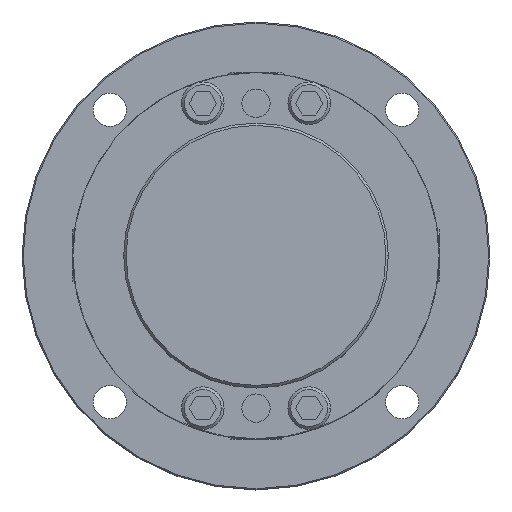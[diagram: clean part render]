
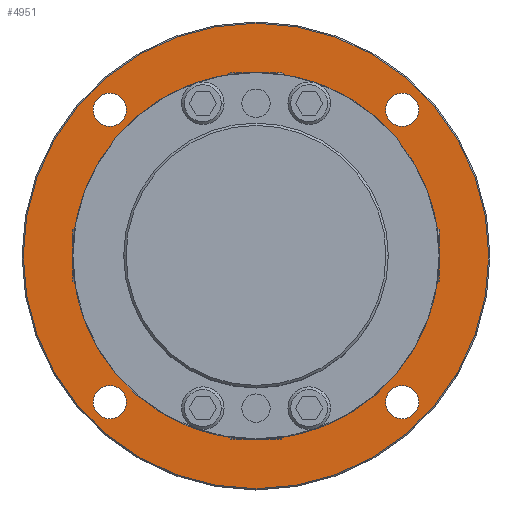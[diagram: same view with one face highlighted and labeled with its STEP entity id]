
A CAD part, top view. The second image highlights one B-rep face of the part: STEP entity #4951.
In plain terms, the highlighted planar face has unit normal (0, 0, 1).
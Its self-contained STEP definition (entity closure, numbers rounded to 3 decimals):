
#1193=CARTESIAN_POINT('',(0.,77.5,-28.5));
#1194=VERTEX_POINT('',#1193);
#1203=CARTESIAN_POINT('',(0.,-77.5,-28.5));
#1204=VERTEX_POINT('',#1203);
#1205=CARTESIAN_POINT('',(0.0,0.,-28.5));
#1206=DIRECTION('',(0.0,0.0,-1.0));
#1207=DIRECTION('',(0.0,1.0,0.0));
#1208=AXIS2_PLACEMENT_3D('',#1205,#1206,#1207);
#1209=CIRCLE('',#1208,77.5);
#1210=EDGE_CURVE('',#1204,#1194,#1209,.T.);
#1285=CARTESIAN_POINT('',(-61.872,68.872,-28.5));
#1286=VERTEX_POINT('',#1285);
#1295=CARTESIAN_POINT('',(-61.872,54.872,-28.5));
#1296=VERTEX_POINT('',#1295);
#1297=CARTESIAN_POINT('',(-61.872,61.872,-28.5));
#1298=DIRECTION('',(0.0,0.0,-1.0));
#1299=DIRECTION('',(0.0,1.0,0.0));
#1300=AXIS2_PLACEMENT_3D('',#1297,#1298,#1299);
#1301=CIRCLE('',#1300,7.0);
#1302=EDGE_CURVE('',#1296,#1286,#1301,.T.);
#1327=CARTESIAN_POINT('',(-61.872,-54.872,-28.5));
#1328=VERTEX_POINT('',#1327);
#1337=CARTESIAN_POINT('',(-61.872,-68.872,-28.5));
#1338=VERTEX_POINT('',#1337);
#1339=CARTESIAN_POINT('',(-61.872,-61.872,-28.5));
#1340=DIRECTION('',(0.0,0.0,-1.0));
#1341=DIRECTION('',(0.0,1.0,0.0));
#1342=AXIS2_PLACEMENT_3D('',#1339,#1340,#1341);
#1343=CIRCLE('',#1342,7.0);
#1344=EDGE_CURVE('',#1338,#1328,#1343,.T.);
#1369=CARTESIAN_POINT('',(61.872,-54.872,-28.5));
#1370=VERTEX_POINT('',#1369);
#1379=CARTESIAN_POINT('',(61.872,-68.872,-28.5));
#1380=VERTEX_POINT('',#1379);
#1381=CARTESIAN_POINT('',(61.872,-61.872,-28.5));
#1382=DIRECTION('',(0.0,0.0,-1.0));
#1383=DIRECTION('',(0.0,1.0,0.0));
#1384=AXIS2_PLACEMENT_3D('',#1381,#1382,#1383);
#1385=CIRCLE('',#1384,7.0);
#1386=EDGE_CURVE('',#1380,#1370,#1385,.T.);
#1411=CARTESIAN_POINT('',(61.872,68.872,-28.5));
#1412=VERTEX_POINT('',#1411);
#1421=CARTESIAN_POINT('',(61.872,54.872,-28.5));
#1422=VERTEX_POINT('',#1421);
#1423=CARTESIAN_POINT('',(61.872,61.872,-28.5));
#1424=DIRECTION('',(0.0,0.0,-1.0));
#1425=DIRECTION('',(0.0,1.0,0.0));
#1426=AXIS2_PLACEMENT_3D('',#1423,#1424,#1425);
#1427=CIRCLE('',#1426,7.0);
#1428=EDGE_CURVE('',#1422,#1412,#1427,.T.);
#1959=CARTESIAN_POINT('',(0.,-98.5,-28.5));
#1960=VERTEX_POINT('',#1959);
#1969=CARTESIAN_POINT('',(0.,98.5,-28.5));
#1970=VERTEX_POINT('',#1969);
#1971=CARTESIAN_POINT('',(0.0,0.,-28.5));
#1972=DIRECTION('',(0.0,0.0,-1.0));
#1973=DIRECTION('',(0.0,-1.0,0.0));
#1974=AXIS2_PLACEMENT_3D('',#1971,#1972,#1973);
#1975=CIRCLE('',#1974,98.5);
#1976=EDGE_CURVE('',#1960,#1970,#1975,.T.);
#4882=CARTESIAN_POINT('',(0.0,0.,-28.5));
#4883=DIRECTION('',(0.0,0.0,-1.0));
#4884=DIRECTION('',(0.0,-1.0,0.0));
#4885=AXIS2_PLACEMENT_3D('',#4882,#4883,#4884);
#4886=CIRCLE('',#4885,98.5);
#4887=EDGE_CURVE('',#1970,#1960,#4886,.T.);
#4892=CARTESIAN_POINT('',(0.,9.,-28.5));
#4893=DIRECTION('',(0.0,0.0,1.0));
#4894=DIRECTION('',(0.0,1.0,0.0));
#4895=AXIS2_PLACEMENT_3D('',#4892,#4893,#4894);
#4896=PLANE('',#4895);
#4897=ORIENTED_EDGE('',*,*,#4887,.F.);
#4898=ORIENTED_EDGE('',*,*,#1976,.F.);
#4899=EDGE_LOOP('',(#4897,#4898));
#4900=FACE_OUTER_BOUND('',#4899,.T.);
#4901=ORIENTED_EDGE('',*,*,#1210,.T.);
#4902=CARTESIAN_POINT('',(0.0,0.,-28.5));
#4903=DIRECTION('',(0.0,0.0,-1.0));
#4904=DIRECTION('',(0.0,1.0,0.0));
#4905=AXIS2_PLACEMENT_3D('',#4902,#4903,#4904);
#4906=CIRCLE('',#4905,77.5);
#4907=EDGE_CURVE('',#1194,#1204,#4906,.T.);
#4908=ORIENTED_EDGE('',*,*,#4907,.T.);
#4909=EDGE_LOOP('',(#4901,#4908));
#4910=FACE_BOUND('',#4909,.T.);
#4911=ORIENTED_EDGE('',*,*,#1302,.T.);
#4912=CARTESIAN_POINT('',(-61.872,61.872,-28.5));
#4913=DIRECTION('',(0.0,0.0,-1.0));
#4914=DIRECTION('',(0.0,1.0,0.0));
#4915=AXIS2_PLACEMENT_3D('',#4912,#4913,#4914);
#4916=CIRCLE('',#4915,7.0);
#4917=EDGE_CURVE('',#1286,#1296,#4916,.T.);
#4918=ORIENTED_EDGE('',*,*,#4917,.T.);
#4919=EDGE_LOOP('',(#4911,#4918));
#4920=FACE_BOUND('',#4919,.T.);
#4921=ORIENTED_EDGE('',*,*,#1344,.T.);
#4922=CARTESIAN_POINT('',(-61.872,-61.872,-28.5));
#4923=DIRECTION('',(0.0,0.0,-1.0));
#4924=DIRECTION('',(0.0,1.0,0.0));
#4925=AXIS2_PLACEMENT_3D('',#4922,#4923,#4924);
#4926=CIRCLE('',#4925,7.0);
#4927=EDGE_CURVE('',#1328,#1338,#4926,.T.);
#4928=ORIENTED_EDGE('',*,*,#4927,.T.);
#4929=EDGE_LOOP('',(#4921,#4928));
#4930=FACE_BOUND('',#4929,.T.);
#4931=ORIENTED_EDGE('',*,*,#1386,.T.);
#4932=CARTESIAN_POINT('',(61.872,-61.872,-28.5));
#4933=DIRECTION('',(0.0,0.0,-1.0));
#4934=DIRECTION('',(0.0,1.0,0.0));
#4935=AXIS2_PLACEMENT_3D('',#4932,#4933,#4934);
#4936=CIRCLE('',#4935,7.0);
#4937=EDGE_CURVE('',#1370,#1380,#4936,.T.);
#4938=ORIENTED_EDGE('',*,*,#4937,.T.);
#4939=EDGE_LOOP('',(#4931,#4938));
#4940=FACE_BOUND('',#4939,.T.);
#4941=ORIENTED_EDGE('',*,*,#1428,.T.);
#4942=CARTESIAN_POINT('',(61.872,61.872,-28.5));
#4943=DIRECTION('',(0.0,0.0,-1.0));
#4944=DIRECTION('',(0.0,1.0,0.0));
#4945=AXIS2_PLACEMENT_3D('',#4942,#4943,#4944);
#4946=CIRCLE('',#4945,7.0);
#4947=EDGE_CURVE('',#1412,#1422,#4946,.T.);
#4948=ORIENTED_EDGE('',*,*,#4947,.T.);
#4949=EDGE_LOOP('',(#4941,#4948));
#4950=FACE_BOUND('',#4949,.T.);
#4951=ADVANCED_FACE('',(#4900,#4910,#4920,#4930,#4940,#4950),#4896,.T.);
